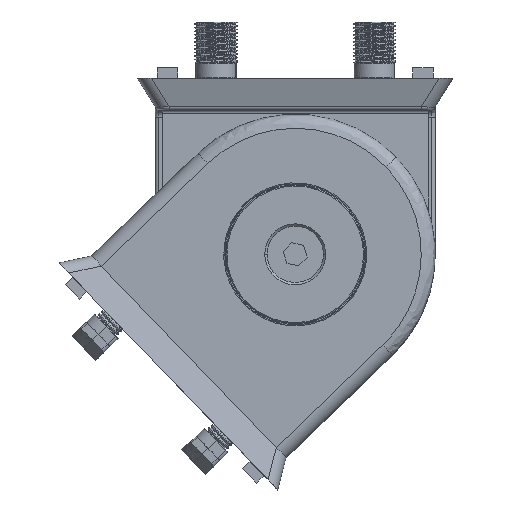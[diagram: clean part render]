
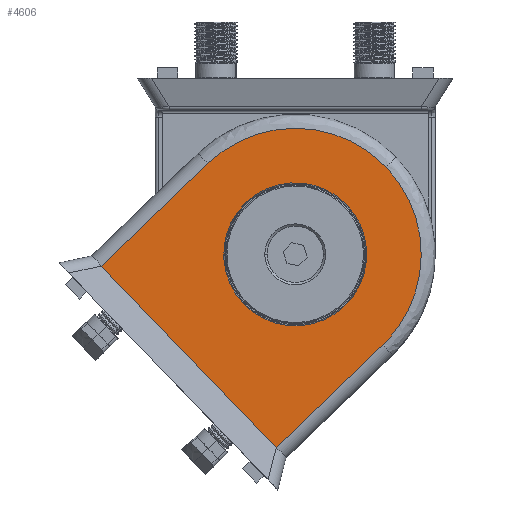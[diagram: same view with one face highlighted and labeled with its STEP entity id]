
A CAD part, front view. The second image highlights one B-rep face of the part: STEP entity #4606.
In plain terms, the highlighted planar face has unit normal (0, -1, 0) as drawn and (0, 1, 0) by its records, which use the part's own axes.
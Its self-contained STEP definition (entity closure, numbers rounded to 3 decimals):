
#318 = VERTEX_POINT ( 'NONE', #42106 ) ;
#337 = VERTEX_POINT ( 'NONE', #48414 ) ;
#431 = EDGE_CURVE ( 'NONE', #318, #14229, #36173, .T. ) ;
#1888 = ORIENTED_EDGE ( 'NONE', *, *, #51988, .F. ) ;
#2405 = DIRECTION ( 'NONE',  ( 0., 1., 0. ) ) ;
#4606 = ADVANCED_FACE ( 'NONE', ( #29676, #10355 ), #15141, .F. ) ;
#7632 = VERTEX_POINT ( 'NONE', #39487 ) ;
#9421 = CIRCLE ( 'NONE', #27943, 20.319 ) ;
#10109 = DIRECTION ( 'NONE',  ( 0., 0., -1. ) ) ;
#10355 = FACE_BOUND ( 'NONE', #66774, .T. ) ;
#10610 = CARTESIAN_POINT ( 'NONE',  ( 0., 19.9, -41. ) ) ;
#11552 = DIRECTION ( 'NONE',  ( -1., 0., 0. ) ) ;
#12201 = VERTEX_POINT ( 'NONE', #14517 ) ;
#13073 = DIRECTION ( 'NONE',  ( 0., 0., 1. ) ) ;
#13401 = CARTESIAN_POINT ( 'NONE',  ( -35.8, 19.9, -41. ) ) ;
#13883 = CARTESIAN_POINT ( 'NONE',  ( 0., 19.9, -41. ) ) ;
#14229 = VERTEX_POINT ( 'NONE', #39906 ) ;
#14517 = CARTESIAN_POINT ( 'NONE',  ( 0., 19.9, -61.319 ) ) ;
#15141 = PLANE ( 'NONE',  #51586 ) ;
#15617 = CARTESIAN_POINT ( 'NONE',  ( 0., 19.9, -20.681 ) ) ;
#16239 = DIRECTION ( 'NONE',  ( 0., 0., 1. ) ) ;
#16991 = EDGE_CURVE ( 'NONE', #7632, #337, #55398, .T. ) ;
#17992 = CARTESIAN_POINT ( 'NONE',  ( 35.8, 19.9, -41. ) ) ;
#18533 = CARTESIAN_POINT ( 'NONE',  ( -35.8, 19.9, -41. ) ) ;
#25616 = EDGE_CURVE ( 'NONE', #14229, #36184, #26095, .T. ) ;
#26095 = LINE ( 'NONE', #37298, #42069 ) ;
#27258 = ORIENTED_EDGE ( 'NONE', *, *, #431, .F. ) ;
#27354 = EDGE_CURVE ( 'NONE', #337, #318, #31035, .T. ) ;
#27943 = AXIS2_PLACEMENT_3D ( 'NONE', #10610, #58657, #16239 ) ;
#28325 = CARTESIAN_POINT ( 'NONE',  ( 0., 19.9, -76.8 ) ) ;
#29676 = FACE_OUTER_BOUND ( 'NONE', #62089, .T. ) ;
#31035 = LINE ( 'NONE', #61575, #34364 ) ;
#32263 = ORIENTED_EDGE ( 'NONE', *, *, #65799, .F. ) ;
#33820 = VERTEX_POINT ( 'NONE', #15617 ) ;
#34364 = VECTOR ( 'NONE', #13073, 1000. ) ;
#34522 = CARTESIAN_POINT ( 'NONE',  ( -20.971, 19.9, -76.8 ) ) ;
#36173 = LINE ( 'NONE', #43262, #65441 ) ;
#36184 = VERTEX_POINT ( 'NONE', #18533 ) ;
#37298 = CARTESIAN_POINT ( 'NONE',  ( -35.8, 19.9, 0. ) ) ;
#39487 = CARTESIAN_POINT ( 'NONE',  ( 0., 19.9, -76.8 ) ) ;
#39906 = CARTESIAN_POINT ( 'NONE',  ( -35.8, 19.9, 1. ) ) ;
#42069 = VECTOR ( 'NONE', #10109, 1000. ) ;
#42106 = CARTESIAN_POINT ( 'NONE',  ( 35.8, 19.9, 1. ) ) ;
#42353 = ORIENTED_EDGE ( 'NONE', *, *, #25616, .F. ) ;
#43262 = CARTESIAN_POINT ( 'NONE',  ( 39.8, 19.9, 1. ) ) ;
#48414 = CARTESIAN_POINT ( 'NONE',  ( 35.8, 19.9, -41. ) ) ;
#49978 = CARTESIAN_POINT ( 'NONE',  ( 0., 19.9, -76.8 ) ) ;
#50231 = CIRCLE ( 'NONE', #63460, 20.319 ) ;
#50569 = CARTESIAN_POINT ( 'NONE',  ( 35.8, 19.9, -61.971 ) ) ;
#50672 = CARTESIAN_POINT ( 'NONE',  ( -35.8, 19.9, -61.971 ) ) ;
#51586 = AXIS2_PLACEMENT_3D ( 'NONE', #58462, #53089, #57782 ) ;
#51988 = EDGE_CURVE ( 'NONE', #12201, #33820, #50231, .T. ) ;
#53089 = DIRECTION ( 'NONE',  ( 0., -1., 0. ) ) ;
#55244 = CARTESIAN_POINT ( 'NONE',  ( 20.971, 19.9, -76.8 ) ) ;
#55398 =( BOUNDED_CURVE ( )  B_SPLINE_CURVE ( 3, ( #28325, #55244, #50569, #17992 ),
 .UNSPECIFIED., .F., .F. ) 
 B_SPLINE_CURVE_WITH_KNOTS ( ( 4, 4 ),
 ( 0.5, 1. ),
 .UNSPECIFIED. ) 
 CURVE ( )  GEOMETRIC_REPRESENTATION_ITEM ( )  RATIONAL_B_SPLINE_CURVE ( ( 1., 0.805, 0.805, 1. ) ) 
 REPRESENTATION_ITEM ( '' )  );
#57782 = DIRECTION ( 'NONE',  ( 0., 0., -1. ) ) ;
#58062 = ORIENTED_EDGE ( 'NONE', *, *, #27354, .F. ) ;
#58462 = CARTESIAN_POINT ( 'NONE',  ( 39.8, 19.9, 0. ) ) ;
#58657 = DIRECTION ( 'NONE',  ( 0., 1., 0. ) ) ;
#60070 = ORIENTED_EDGE ( 'NONE', *, *, #63268, .F. ) ;
#60578 = ORIENTED_EDGE ( 'NONE', *, *, #16991, .F. ) ;
#61010 =( BOUNDED_CURVE ( )  B_SPLINE_CURVE ( 3, ( #13401, #50672, #34522, #49978 ),
 .UNSPECIFIED., .F., .F. ) 
 B_SPLINE_CURVE_WITH_KNOTS ( ( 4, 4 ),
 ( 0., 0.5 ),
 .UNSPECIFIED. ) 
 CURVE ( )  GEOMETRIC_REPRESENTATION_ITEM ( )  RATIONAL_B_SPLINE_CURVE ( ( 1., 0.805, 0.805, 1. ) ) 
 REPRESENTATION_ITEM ( '' )  );
#61575 = CARTESIAN_POINT ( 'NONE',  ( 35.8, 19.9, 0. ) ) ;
#62089 = EDGE_LOOP ( 'NONE', ( #58062, #60578, #60070, #42353, #27258 ) ) ;
#63268 = EDGE_CURVE ( 'NONE', #36184, #7632, #61010, .T. ) ;
#63460 = AXIS2_PLACEMENT_3D ( 'NONE', #13883, #2405, #67095 ) ;
#65441 = VECTOR ( 'NONE', #11552, 1000. ) ;
#65799 = EDGE_CURVE ( 'NONE', #33820, #12201, #9421, .T. ) ;
#66774 = EDGE_LOOP ( 'NONE', ( #32263, #1888 ) ) ;
#67095 = DIRECTION ( 'NONE',  ( 0., 0., 1. ) ) ;
